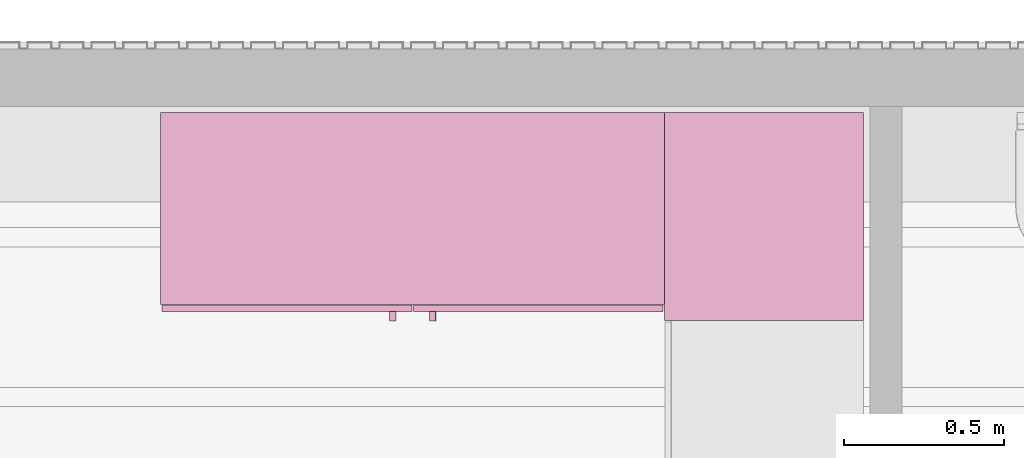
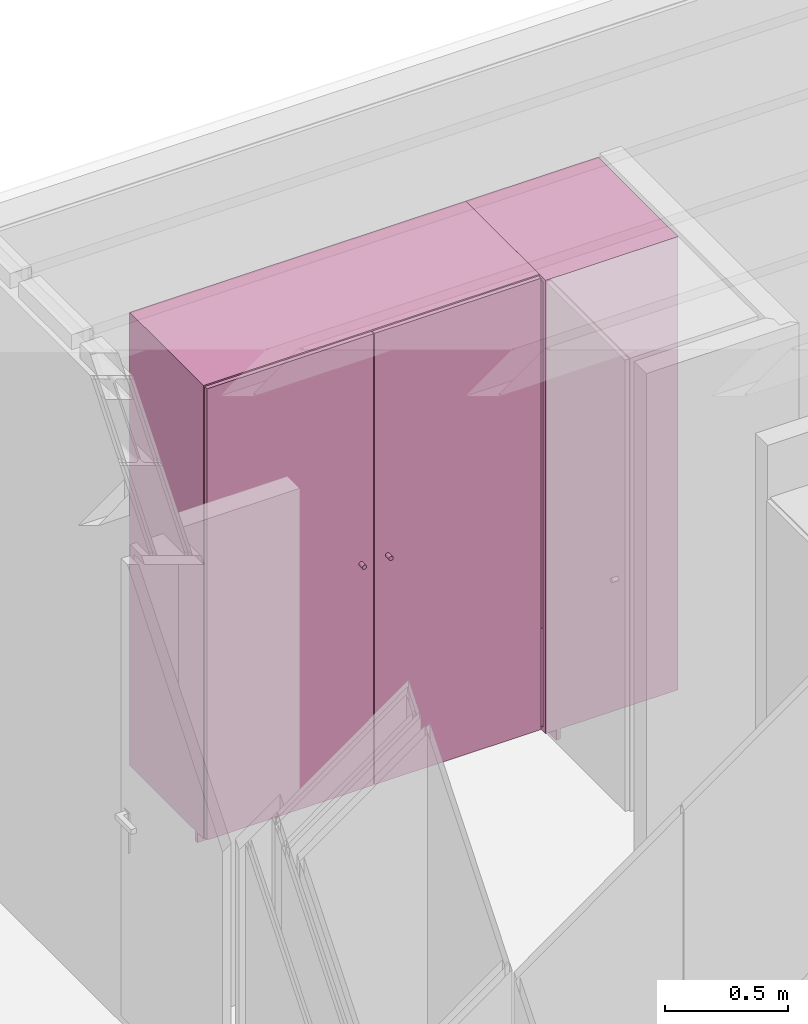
# One storey, part 28 of 28: 2 furniture elements.
"""IFC4X3_ADD2 building model written with IfcOpenShell, lengths in metres."""

from ifc_helpers import new_model, si_unit, direction, frame, frame_2d, origin_with_axes, origin_2d_with_axis, place, context, subcontext, project, spatial, polyline, rectangle, outline, extrude, source, transform, mapped, material, element, save


model = new_model("IFC4X3_ADD2")

# Units and contexts
model_context = context("Model", 3, precision=1e-05, world=origin_with_axes(), true_north=direction((0.0, 1.0)))
body_context = subcontext(model_context, "Body", "Model", "MODEL_VIEW")
ifc_project = project(units=[si_unit("LENGTHUNIT", "METRE"), si_unit("AREAUNIT", "SQUARE_METRE"), si_unit("VOLUMEUNIT", "CUBIC_METRE"), si_unit("PLANEANGLEUNIT", "RADIAN"), si_unit("TIMEUNIT", "SECOND"), si_unit("MASSUNIT", "GRAM")], contexts=[model_context])

# Site, building, storey, space
site_placement = place(None, origin_with_axes())
site = spatial("IfcSite", under=ifc_project, at=site_placement, Name="Site", CompositionType="ELEMENT")
building_placement = place(site_placement, origin_with_axes())
building = spatial("IfcBuilding", under=site, at=building_placement, Name="Default Building")
storey_placement = place(building_placement, frame((0.0, 0.0, -0.08), z_axis=(0.0, 0.0, 1.0), x_axis=(1.0, 0.0, 0.0)))
storey = spatial("IfcBuildingStorey", under=building, at=storey_placement, Name="Gruendung", Elevation=-0.08)
space_placement = place(storey_placement, frame((18.925001, 21.90000023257, 0.08), z_axis=(0.0, 0.0, 1.0), x_axis=(0.0, -1.0, 0.0)))
space = spatial("IfcSpace", under=storey, at=space_placement, Name="Space", CompositionType="ELEMENT", PredefinedType="SPACE")

# Furniture
ifc_material = material(Name="Default")
shared_shape_1 = source(origin_with_axes(), body_context, "Body", "SweptSolid", [
    extrude(rectangle(XDim=0.6, YDim=0.02, at=frame_2d((0.0, 0.0), x_axis=(0.0, 1.0))), frame((0.01, 0.3, 0.05000000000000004), z_axis=(0.0, 0.0, 1.0), x_axis=(1.0, 0.0, 0.0)), (0.0, 0.0, 1.0), 2.25),
    extrude(rectangle(XDim=0.6, YDim=0.02000000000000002, at=frame_2d((0.0, 0.0), x_axis=(0.0, 1.0))), frame((1.568, 0.3, 0.05000000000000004), z_axis=(0.0, 0.0, 1.0), x_axis=(1.0, 0.0, 0.0)), (0.0, 0.0, 1.0), 2.25),
    extrude(rectangle(XDim=1.538, YDim=0.6, at=origin_2d_with_axis()), frame((0.789, 0.3, 2.28), z_axis=(0.0, 0.0, 1.0), x_axis=(1.0, 0.0, 0.0)), (0.0, 0.0, 1.0), 0.01999999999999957),
    extrude(rectangle(XDim=1.538, YDim=0.6, at=origin_2d_with_axis()), frame((0.789, 0.3, 0.05), z_axis=(0.0, 0.0, 1.0), x_axis=(1.0, 0.0, 0.0)), (0.0, 0.0, 1.0), 0.02),
    extrude(rectangle(XDim=1.538, YDim=0.02000000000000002, at=origin_2d_with_axis()), frame((0.789, 0.589, 0.06999999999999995), z_axis=(0.0, 0.0, 1.0), x_axis=(1.0, 0.0, 0.0)), (0.0, 0.0, 1.0), 2.21),
    extrude(rectangle(XDim=0.7815, YDim=0.02, at=origin_2d_with_axis()), frame((0.3957499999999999, -0.0115, 0.05500000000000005), z_axis=(0.0, 0.0, 1.0), x_axis=(1.0, 0.0, 0.0)), (0.0, 0.0, 1.0), 2.24),
    extrude(rectangle(XDim=0.7815, YDim=0.02, at=origin_2d_with_axis()), frame((1.18225, -0.0115, 0.05500000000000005), z_axis=(0.0, 0.0, 1.0), x_axis=(1.0, 0.0, 0.0)), (0.0, 0.0, 1.0), 2.24),
    extrude(rectangle(XDim=1.578, YDim=0.02, at=origin_2d_with_axis()), frame((0.789, 0.06, 0.0), z_axis=(0.0, 0.0, 1.0), x_axis=(1.0, 0.0, 0.0)), (0.0, 0.0, 1.0), 0.05),
    extrude(outline(polyline([(0.00980751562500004, 0.00195048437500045), (0.009951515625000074, 0.0009794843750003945), (0.009999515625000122, 4.843750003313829e-07), (0.009951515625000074, -0.0009795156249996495), (0.00980751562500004, -0.001950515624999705), (0.009568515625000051, -0.002902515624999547), (0.00923851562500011, -0.003826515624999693), (0.008818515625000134, -0.004713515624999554), (0.008314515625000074, -0.005555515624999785), (0.007729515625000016, -0.006343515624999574), (0.007070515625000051, -0.007070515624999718), (0.006343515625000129, -0.007729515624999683), (0.005555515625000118, -0.008314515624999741), (0.004713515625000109, -0.008818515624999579), (0.003826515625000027, -0.009238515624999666), (0.002902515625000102, -0.009568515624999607), (0.001950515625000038, -0.009807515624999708), (0.0009795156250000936, -0.00995151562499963), (-4.843749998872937e-07, -0.009999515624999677), (-0.0009794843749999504, -0.00995151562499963), (-0.001950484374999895, -0.009807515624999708), (-0.002902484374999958, -0.009568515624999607), (-0.003826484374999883, -0.009238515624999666), (-0.004713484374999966, -0.008818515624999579), (-0.005555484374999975, -0.008314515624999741), (-0.006343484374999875, -0.007729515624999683), (-0.007070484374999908, -0.007070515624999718), (-0.007729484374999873, -0.006343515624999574), (-0.008314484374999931, -0.005555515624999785), (-0.00881848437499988, -0.004713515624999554), (-0.009238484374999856, -0.003826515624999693), (-0.009568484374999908, -0.002902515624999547), (-0.009807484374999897, -0.001950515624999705), (-0.00995148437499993, -0.0009795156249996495), (-0.009999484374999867, 4.843750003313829e-07), (-0.00995148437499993, 0.0009794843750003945), (-0.009807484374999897, 0.00195048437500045), (-0.009568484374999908, 0.002902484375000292), (-0.009238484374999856, 0.003826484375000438), (-0.00881848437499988, 0.004713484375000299), (-0.008314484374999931, 0.005555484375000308), (-0.007729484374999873, 0.006343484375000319), (-0.007070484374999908, 0.007070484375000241), (-0.006343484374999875, 0.007729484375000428), (-0.005555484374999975, 0.008314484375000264), (-0.004713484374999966, 0.008818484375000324), (-0.003826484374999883, 0.00923848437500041), (-0.002902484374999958, 0.009568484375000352), (-0.001950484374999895, 0.009807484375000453), (-0.0009794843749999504, 0.009951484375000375), (-4.843749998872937e-07, 0.009999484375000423), (0.0009795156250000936, 0.009951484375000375), (0.001950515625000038, 0.009807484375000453), (0.002902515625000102, 0.009568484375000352), (0.003826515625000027, 0.00923848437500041), (0.004713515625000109, 0.008818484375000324), (0.005555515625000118, 0.008314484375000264), (0.006343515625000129, 0.007729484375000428), (0.007070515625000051, 0.007070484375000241), (0.007729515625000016, 0.006343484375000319), (0.008314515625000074, 0.005555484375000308), (0.008818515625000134, 0.004713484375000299), (0.00923851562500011, 0.003826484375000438), (0.009568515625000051, 0.002902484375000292), (0.00980751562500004, 0.00195048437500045)])), frame((0.7265004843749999, -0.05149999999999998, 1.175000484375), z_axis=(0.0, 1.0, 0.0), x_axis=(1.0, 0.0, 0.0)), (0.0, 0.0, 1.0), 0.02999999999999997),
    extrude(outline(polyline([(0.00980751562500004, 0.00195048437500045), (0.009951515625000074, 0.0009794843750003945), (0.009999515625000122, 4.843750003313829e-07), (0.009951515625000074, -0.0009795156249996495), (0.00980751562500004, -0.001950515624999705), (0.009568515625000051, -0.002902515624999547), (0.00923851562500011, -0.003826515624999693), (0.008818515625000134, -0.004713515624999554), (0.008314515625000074, -0.005555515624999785), (0.007729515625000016, -0.006343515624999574), (0.007070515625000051, -0.007070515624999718), (0.006343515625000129, -0.007729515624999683), (0.005555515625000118, -0.008314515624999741), (0.004713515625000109, -0.008818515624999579), (0.003826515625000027, -0.009238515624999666), (0.002902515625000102, -0.009568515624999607), (0.001950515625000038, -0.009807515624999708), (0.0009795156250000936, -0.00995151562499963), (-4.843749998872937e-07, -0.009999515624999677), (-0.0009794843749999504, -0.00995151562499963), (-0.001950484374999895, -0.009807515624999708), (-0.002902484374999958, -0.009568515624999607), (-0.003826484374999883, -0.009238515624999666), (-0.004713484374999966, -0.008818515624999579), (-0.005555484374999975, -0.008314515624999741), (-0.006343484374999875, -0.007729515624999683), (-0.007070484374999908, -0.007070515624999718), (-0.007729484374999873, -0.006343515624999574), (-0.008314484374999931, -0.005555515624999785), (-0.00881848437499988, -0.004713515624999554), (-0.009238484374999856, -0.003826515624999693), (-0.009568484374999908, -0.002902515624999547), (-0.009807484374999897, -0.001950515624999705), (-0.00995148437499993, -0.0009795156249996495), (-0.009999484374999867, 4.843750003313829e-07), (-0.00995148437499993, 0.0009794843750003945), (-0.009807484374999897, 0.00195048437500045), (-0.009568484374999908, 0.002902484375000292), (-0.009238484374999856, 0.003826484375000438), (-0.00881848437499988, 0.004713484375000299), (-0.008314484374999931, 0.005555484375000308), (-0.007729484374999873, 0.006343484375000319), (-0.007070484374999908, 0.007070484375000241), (-0.006343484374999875, 0.007729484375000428), (-0.005555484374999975, 0.008314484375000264), (-0.004713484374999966, 0.008818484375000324), (-0.003826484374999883, 0.00923848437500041), (-0.002902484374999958, 0.009568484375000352), (-0.001950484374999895, 0.009807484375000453), (-0.0009794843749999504, 0.009951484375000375), (-4.843749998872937e-07, 0.009999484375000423), (0.0009795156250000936, 0.009951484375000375), (0.001950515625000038, 0.009807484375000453), (0.002902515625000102, 0.009568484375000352), (0.003826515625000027, 0.00923848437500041), (0.004713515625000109, 0.008818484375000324), (0.005555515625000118, 0.008314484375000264), (0.006343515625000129, 0.007729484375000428), (0.007070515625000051, 0.007070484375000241), (0.007729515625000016, 0.006343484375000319), (0.008314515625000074, 0.005555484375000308), (0.008818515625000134, 0.004713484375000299), (0.00923851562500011, 0.003826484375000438), (0.009568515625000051, 0.002902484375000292), (0.00980751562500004, 0.00195048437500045)])), frame((0.851500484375, -0.05149999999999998, 1.175000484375), z_axis=(0.0, 1.0, 0.0), x_axis=(1.0, 0.0, 0.0)), (0.0, 0.0, 1.0), 0.02999999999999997),
])
furniture_1_placement = place(storey_placement, frame((19.71606372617, 21.28, 0.08), z_axis=(0.0, 0.0, 1.0), x_axis=(1.0, 0.0, 0.0)))
element("IfcFurniture", 1, at=furniture_1_placement, inside=space, material=ifc_material, Name="IfcFurniture", PredefinedType="FILECABINET", context=body_context, shape_type="MappedRepresentation", body=[
    mapped(shared_shape_1, transform((0.0, 0.0, 0.0))),
])
shared_shape_2 = source(origin_with_axes(), body_context, "Body", "SweptSolid", [
    extrude(rectangle(XDim=0.622, YDim=0.02, at=frame_2d((0.0, 0.0), x_axis=(0.0, 1.0))), frame((0.01, 0.311, 0.05000000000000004), z_axis=(0.0, 0.0, 1.0), x_axis=(1.0, 0.0, 0.0)), (0.0, 0.0, 1.0), 2.25),
    extrude(rectangle(XDim=0.622, YDim=0.02000000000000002, at=frame_2d((0.0, 0.0), x_axis=(0.0, 1.0))), frame((0.64, 0.311, 0.05000000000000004), z_axis=(0.0, 0.0, 1.0), x_axis=(1.0, 0.0, 0.0)), (0.0, 0.0, 1.0), 2.25),
    extrude(rectangle(XDim=0.622, YDim=0.61, at=frame_2d((0.0, 0.0), x_axis=(0.0, 1.0))), frame((0.325, 0.311, 2.28), z_axis=(0.0, 0.0, 1.0), x_axis=(1.0, 0.0, 0.0)), (0.0, 0.0, 1.0), 0.01999999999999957),
    extrude(rectangle(XDim=0.622, YDim=0.61, at=frame_2d((0.0, 0.0), x_axis=(0.0, 1.0))), frame((0.325, 0.311, 0.05), z_axis=(0.0, 0.0, 1.0), x_axis=(1.0, 0.0, 0.0)), (0.0, 0.0, 1.0), 0.02),
    extrude(rectangle(XDim=0.61, YDim=0.02000000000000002, at=origin_2d_with_axis()), frame((0.325, 0.611, 0.06999999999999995), z_axis=(0.0, 0.0, 1.0), x_axis=(1.0, 0.0, 0.0)), (0.0, 0.0, 1.0), 2.21),
    extrude(rectangle(XDim=0.65, YDim=0.02, at=origin_2d_with_axis()), frame((0.325, 0.06, 0.0), z_axis=(0.0, 0.0, 1.0), x_axis=(1.0, 0.0, 0.0)), (0.0, 0.0, 1.0), 0.05),
])
furniture_2_placement = place(storey_placement, frame((21.29356372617, 21.23, 0.08000000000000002), z_axis=(0.0, 0.0, 1.0), x_axis=(0.0, 1.0, 0.0)))
element("IfcFurniture", 2, at=furniture_2_placement, inside=space, material=ifc_material, Name="IfcFurniture", PredefinedType="FILECABINET", context=body_context, shape_type="MappedRepresentation", body=[
    mapped(shared_shape_2, transform((0.0, 0.0, 0.0), x_axis=(1.0, 0.0, 0.0), y_axis=(0.0, -1.0, 0.0), z_axis=(0.0, 0.0, 1.0), scale=1.0)),
])

save(model, "model.ifc")
